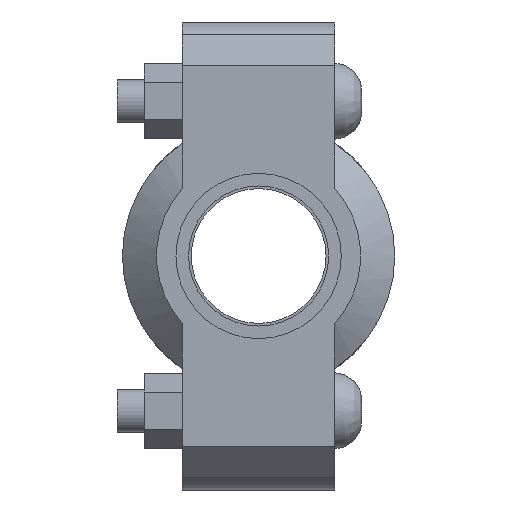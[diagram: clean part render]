
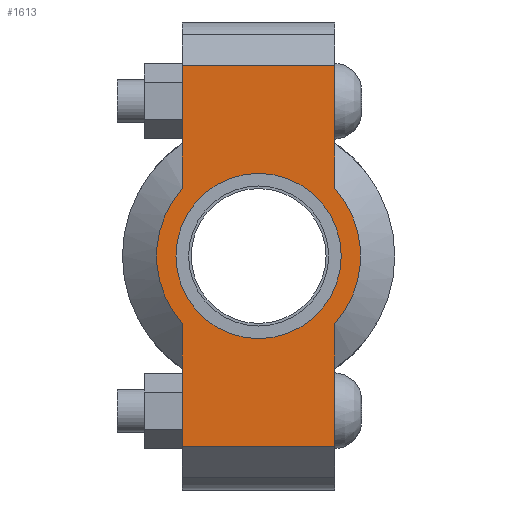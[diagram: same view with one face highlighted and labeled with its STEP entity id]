
A CAD part, left-side view. The second image highlights one B-rep face of the part: STEP entity #1613.
In plain terms, the highlighted planar face has unit normal (-1, 0, 0) as drawn and (0, 0, 1) by its records, which use the part's own axes.
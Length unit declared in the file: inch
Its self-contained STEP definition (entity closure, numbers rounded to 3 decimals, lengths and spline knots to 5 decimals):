
#168=LINE('',#2789,#265);
#183=LINE('',#2848,#280);
#191=LINE('',#2878,#288);
#193=LINE('',#2881,#290);
#194=LINE('',#2886,#291);
#195=LINE('',#2887,#292);
#265=VECTOR('',#2269,0.3937);
#280=VECTOR('',#2304,0.3937);
#288=VECTOR('',#2324,0.3937);
#290=VECTOR('',#2328,0.3937);
#291=VECTOR('',#2333,0.3937);
#292=VECTOR('',#2334,0.3937);
#356=FACE_BOUND('',#533,.T.);
#424=FACE_OUTER_BOUND('',#532,.T.);
#532=EDGE_LOOP('',(#1314,#1315,#1316,#1317,#1318,#1319,#1320,#1321));
#533=EDGE_LOOP('',(#1322));
#615=CIRCLE('',#1841,0.95);
#639=CIRCLE('',#1893,1.172);
#640=CIRCLE('',#1894,1.172);
#711=VERTEX_POINT('',#2615);
#752=VERTEX_POINT('',#2786);
#753=VERTEX_POINT('',#2788);
#774=VERTEX_POINT('',#2843);
#775=VERTEX_POINT('',#2847);
#784=VERTEX_POINT('',#2873);
#785=VERTEX_POINT('',#2877);
#786=VERTEX_POINT('',#2883);
#787=VERTEX_POINT('',#2885);
#875=EDGE_CURVE('',#711,#711,#615,.T.);
#932=EDGE_CURVE('',#753,#752,#168,.T.);
#957=EDGE_CURVE('',#775,#774,#183,.T.);
#970=EDGE_CURVE('',#785,#784,#191,.T.);
#972=EDGE_CURVE('',#785,#752,#193,.T.);
#973=EDGE_CURVE('',#784,#786,#639,.T.);
#974=EDGE_CURVE('',#786,#787,#194,.T.);
#975=EDGE_CURVE('',#775,#787,#195,.T.);
#976=EDGE_CURVE('',#774,#753,#640,.T.);
#1314=ORIENTED_EDGE('',*,*,#972,.F.);
#1315=ORIENTED_EDGE('',*,*,#970,.T.);
#1316=ORIENTED_EDGE('',*,*,#973,.T.);
#1317=ORIENTED_EDGE('',*,*,#974,.T.);
#1318=ORIENTED_EDGE('',*,*,#975,.F.);
#1319=ORIENTED_EDGE('',*,*,#957,.T.);
#1320=ORIENTED_EDGE('',*,*,#976,.T.);
#1321=ORIENTED_EDGE('',*,*,#932,.T.);
#1322=ORIENTED_EDGE('',*,*,#875,.T.);
#1453=PLANE('',#1892);
#1613=ADVANCED_FACE('',(#424,#356),#1453,.T.);
#1841=AXIS2_PLACEMENT_3D('',#2617,#2159,#2160);
#1892=AXIS2_PLACEMENT_3D('',#2882,#2329,#2330);
#1893=AXIS2_PLACEMENT_3D('',#2884,#2331,#2332);
#1894=AXIS2_PLACEMENT_3D('',#2888,#2335,#2336);
#2159=DIRECTION('center_axis',(0.,0.,-1.));
#2160=DIRECTION('ref_axis',(-1.,0.,0.));
#2269=DIRECTION('',(-1.,0.,0.));
#2304=DIRECTION('',(-1.,0.,0.));
#2324=DIRECTION('',(1.,0.,0.));
#2328=DIRECTION('',(0.,1.,0.));
#2329=DIRECTION('center_axis',(0.,0.,1.));
#2330=DIRECTION('ref_axis',(1.,0.,0.));
#2331=DIRECTION('center_axis',(0.,0.,1.));
#2332=DIRECTION('ref_axis',(-1.,0.,0.));
#2333=DIRECTION('',(1.,0.,0.));
#2334=DIRECTION('',(0.,-1.,0.));
#2335=DIRECTION('center_axis',(0.,0.,1.));
#2336=DIRECTION('ref_axis',(-1.,0.,0.));
#2615=CARTESIAN_POINT('',(0.95,0.,0.94));
#2617=CARTESIAN_POINT('Origin',(0.,0.,0.94));
#2786=CARTESIAN_POINT('',(-2.19,0.875,0.94));
#2788=CARTESIAN_POINT('',(-0.77972,0.875,0.94));
#2789=CARTESIAN_POINT('',(2.69,0.875,0.94));
#2843=CARTESIAN_POINT('',(0.77972,0.875,0.94));
#2847=CARTESIAN_POINT('',(2.19,0.875,0.94));
#2848=CARTESIAN_POINT('',(2.69,0.875,0.94));
#2873=CARTESIAN_POINT('',(-0.77972,-0.875,0.94));
#2877=CARTESIAN_POINT('',(-2.19,-0.875,0.94));
#2878=CARTESIAN_POINT('',(-2.69,-0.875,0.94));
#2881=CARTESIAN_POINT('',(-2.19,0.4375,0.94));
#2882=CARTESIAN_POINT('Origin',(0.,0.,0.94));
#2883=CARTESIAN_POINT('',(0.77972,-0.875,0.94));
#2884=CARTESIAN_POINT('Origin',(0.,0.,0.94));
#2885=CARTESIAN_POINT('',(2.19,-0.875,0.94));
#2886=CARTESIAN_POINT('',(-2.69,-0.875,0.94));
#2887=CARTESIAN_POINT('',(2.19,-0.4375,0.94));
#2888=CARTESIAN_POINT('Origin',(0.,0.,0.94));
